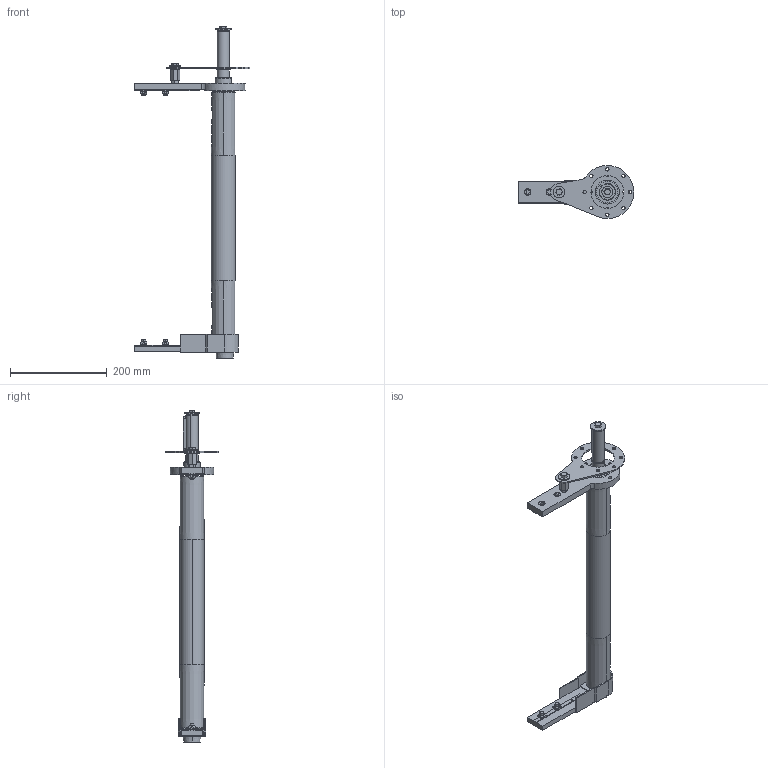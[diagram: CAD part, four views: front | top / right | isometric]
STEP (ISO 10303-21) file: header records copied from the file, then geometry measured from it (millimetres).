
FILE_DESCRIPTION (( 'STEP AP214' ), '1' );
FILE_NAME ('084.050.KD.49.500.STEP', '2019-08-06T11:40:53', ( '' ), ( '' ), 'SwSTEP 2.0', 'SolidWorks 2018', '' );
FILE_SCHEMA (( 'AUTOMOTIVE_DESIGN' ));
Length unit declared in the file: millimetre
Products named in the file (25): 084.802.023_084.802.023; VITI TE UNI 5739_M8x20 UNI 5739; 084.000.A01; 084.808.004; 084.811.003; CHIAVETTE_A 8x7x70 UNI 6604-69; RONDELLE FASCIA LARGA UNI 6593_8.4x32 UNI 6593; VITI TE UNI 5739_M8x16 UNI 5739; 084.802.034_084.802.034; CHIAVETTE_A 5x5x25 UNI 6604-69; 084.802.017_084.802.017; RONDELLE FASCIA LARGA UNI 6593_8.4x24 UNI 6593; 084.807.002_084.807.002; 084.811.004; GRANI A PUNTA PIATTA UNI 5923_M8x25 UNI 5923; VITI TSEI UNI 5933_M4x10 UNI 5933; 084.810.001; 084.802.027; 084.807.001_084.807.001; 084.302.000 DADI ALUSIC 13x13_084.302.004; 084.050.KD.49.500; DADI ESAGONALI RIBASSATI UNI 5589_M8 UNI 5589; 084.815.120_Default<A macchina>; Circlip DIN 471 - 25 x 1.2_Circlip DIN 471 - 25 x 1.2; 084.301.000 VITI ALUSIC_084.301.003
Assembly tree (32 placements, depth 3):
  084.050.KD.49.500
    084.807.002_084.807.002
    084.802.017_084.802.017
    084.811.004
    084.815.120_Default<A macchina>
    084.810.001  x2
    084.301.000 VITI ALUSIC_084.301.003  x4
    084.302.000 DADI ALUSIC 13x13_084.302.004  x4
    084.807.001_084.807.001
    084.802.034_084.802.034
    084.811.003
    084.000.A01
      084.802.027
      084.808.004
      GRANI A PUNTA PIATTA UNI 5923_M8x25 UNI 5923
      RONDELLE FASCIA LARGA UNI 6593_8.4x24 UNI 6593
      VITI TE UNI 5739_M8x16 UNI 5739
    084.802.023_084.802.023
    RONDELLE FASCIA LARGA UNI 6593_8.4x32 UNI 6593
    VITI TE UNI 5739_M8x20 UNI 5739
    DADI ESAGONALI RIBASSATI UNI 5589_M8 UNI 5589
    CHIAVETTE_A 8x7x70 UNI 6604-69
    CHIAVETTE_A 5x5x25 UNI 6604-69
    VITI TSEI UNI 5933_M4x10 UNI 5933  x2
    Circlip DIN 471 - 25 x 1.2_Circlip DIN 471 - 25 x 1.2
Bounding box: 240 x 109.87 x 687.83 mm (x, y, z)
Volume: 798267.9 mm3; surface area: 442749.4 mm2
Topology: 36 solids, 37 shells, 832 faces, 2045 edges, 1318 vertices
Faces by surface type: plane 358, cylinder 279, cone 108, torus 70, sphere 9, bspline 8
Entity records: 22035 total; most frequent: CARTESIAN_POINT 4232, DIRECTION 3652, ORIENTED_EDGE 3266, EDGE_CURVE 1633, AXIS2_PLACEMENT_3D 1439, VERTEX_POINT 1053, EDGE_LOOP 786, VECTOR 774
